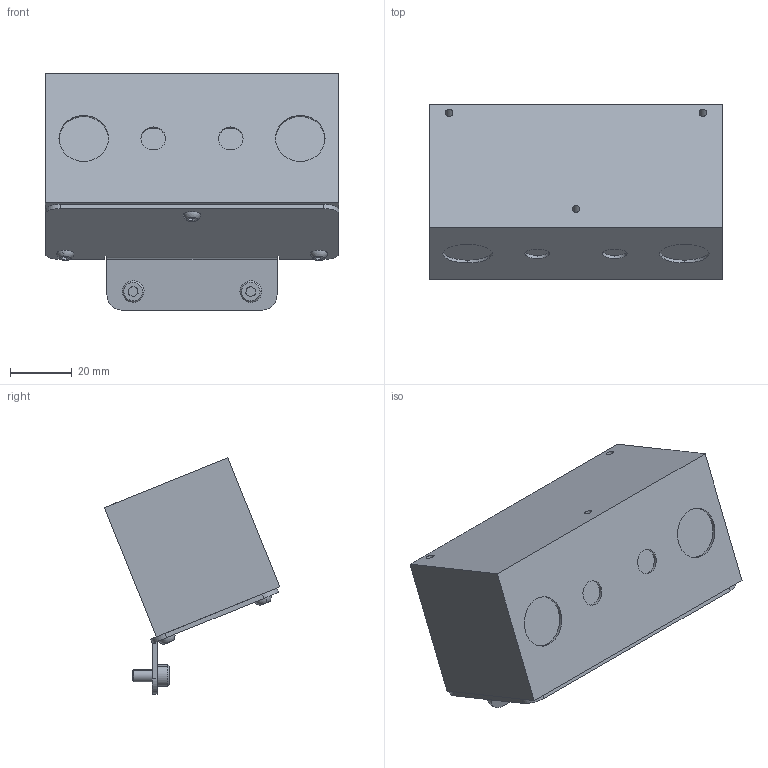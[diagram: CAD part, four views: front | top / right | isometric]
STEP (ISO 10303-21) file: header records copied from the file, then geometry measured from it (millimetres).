
FILE_DESCRIPTION (( 'STEP AP203' ), '1' );
FILE_NAME ('生态套件-分拣工作站-Eye in hand 模块.STEP', '2024-11-08T07:53:26', ( '' ), ( '' ), 'SwSTEP 2.0', 'SolidWorks 2018', '' );
FILE_SCHEMA (( 'CONFIG_CONTROL_DESIGN' ));
Length unit declared in the file: millimetre
Products named in the file (1): 生态套件-分拣工作站-Eye in hand 模块
Bounding box: 95 x 56.73 x 76.35 mm (x, y, z)
Surface area: 31919.2 mm2 (no closed solid volume)
Topology: 0 solids, 9 shells, 122 faces, 350 edges, 225 vertices
Faces by surface type: plane 68, cylinder 34, cone 14, sphere 6
Entity records: 4008 total; most frequent: DIRECTION 722, CARTESIAN_POINT 692, ORIENTED_EDGE 587, EDGE_CURVE 344, AXIS2_PLACEMENT_3D 255, VERTEX_POINT 225, LINE 212, VECTOR 212
